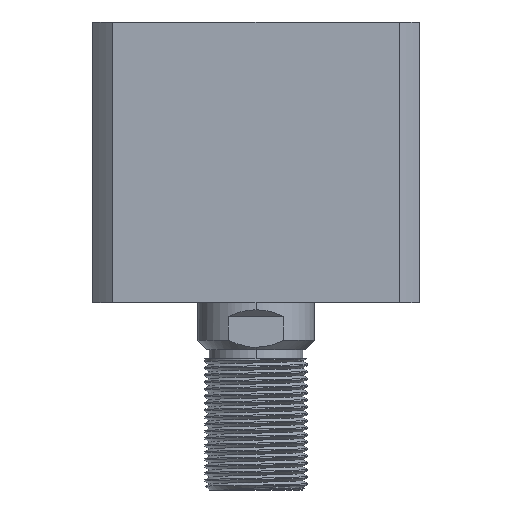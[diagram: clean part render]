
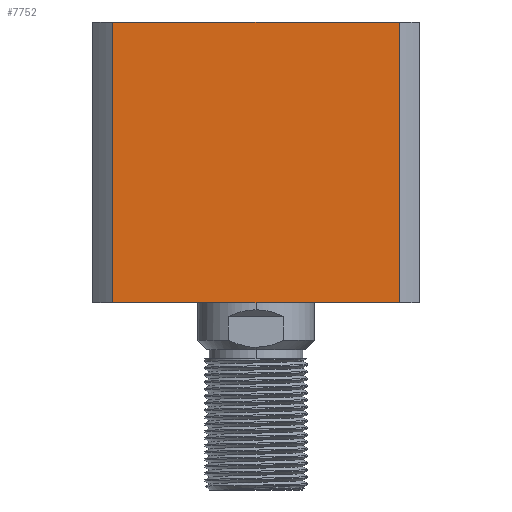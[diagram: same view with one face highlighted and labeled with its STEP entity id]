
A CAD part, front view. The second image highlights one B-rep face of the part: STEP entity #7752.
In plain terms, the highlighted planar face has unit normal (0, -1, 0) as drawn and (1, 0, 0) by its records, which use the part's own axes.
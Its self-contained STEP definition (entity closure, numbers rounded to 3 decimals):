
#297 = VERTEX_POINT ( 'NONE', #7964 ) ;
#317 = VECTOR ( 'NONE', #8385, 1000. ) ;
#900 = LINE ( 'NONE', #8227, #6179 ) ;
#1014 = VERTEX_POINT ( 'NONE', #12837 ) ;
#1564 = ORIENTED_EDGE ( 'NONE', *, *, #5108, .F. ) ;
#1810 = DIRECTION ( 'NONE',  ( 0., 1., 0. ) ) ;
#1894 = LINE ( 'NONE', #12915, #5935 ) ;
#2223 = ORIENTED_EDGE ( 'NONE', *, *, #6254, .T. ) ;
#3109 = LINE ( 'NONE', #7328, #317 ) ;
#3884 = PLANE ( 'NONE',  #7205 ) ;
#4769 = CARTESIAN_POINT ( 'NONE',  ( 35., 30.615, 300. ) ) ;
#4904 = DIRECTION ( 'NONE',  ( -1., 0., 0. ) ) ;
#5108 = EDGE_CURVE ( 'NONE', #12578, #297, #1894, .T. ) ;
#5529 = EDGE_LOOP ( 'NONE', ( #11747, #6521, #1564, #2223 ) ) ;
#5843 = DIRECTION ( 'NONE',  ( 0., 0., -1. ) ) ;
#5935 = VECTOR ( 'NONE', #9777, 1000. ) ;
#6179 = VECTOR ( 'NONE', #1810, 1000. ) ;
#6254 = EDGE_CURVE ( 'NONE', #12578, #1014, #3109, .T. ) ;
#6521 = ORIENTED_EDGE ( 'NONE', *, *, #12636, .F. ) ;
#6617 = CARTESIAN_POINT ( 'NONE',  ( 35., 30.615, 60. ) ) ;
#7205 = AXIS2_PLACEMENT_3D ( 'NONE', #9140, #4904, #11211 ) ;
#7328 = CARTESIAN_POINT ( 'NONE',  ( 35., 35., 0. ) ) ;
#7752 = ADVANCED_FACE ( 'NONE', ( #11943 ), #3884, .F. ) ;
#7964 = CARTESIAN_POINT ( 'NONE',  ( 35., -30.615, 60. ) ) ;
#8227 = CARTESIAN_POINT ( 'NONE',  ( 35., 35., 60. ) ) ;
#8385 = DIRECTION ( 'NONE',  ( 0., 1., 0. ) ) ;
#9140 = CARTESIAN_POINT ( 'NONE',  ( 35., 35., 60. ) ) ;
#9413 = EDGE_CURVE ( 'NONE', #13504, #1014, #9953, .T. ) ;
#9777 = DIRECTION ( 'NONE',  ( 0., 0., 1. ) ) ;
#9953 = LINE ( 'NONE', #4769, #12368 ) ;
#10318 = CARTESIAN_POINT ( 'NONE',  ( 35., -30.615, 0. ) ) ;
#11211 = DIRECTION ( 'NONE',  ( 0., 0., 1. ) ) ;
#11747 = ORIENTED_EDGE ( 'NONE', *, *, #9413, .F. ) ;
#11943 = FACE_OUTER_BOUND ( 'NONE', #5529, .T. ) ;
#12368 = VECTOR ( 'NONE', #5843, 1000. ) ;
#12578 = VERTEX_POINT ( 'NONE', #10318 ) ;
#12636 = EDGE_CURVE ( 'NONE', #297, #13504, #900, .T. ) ;
#12837 = CARTESIAN_POINT ( 'NONE',  ( 35., 30.615, 0. ) ) ;
#12915 = CARTESIAN_POINT ( 'NONE',  ( 35., -30.615, 300. ) ) ;
#13504 = VERTEX_POINT ( 'NONE', #6617 ) ;
